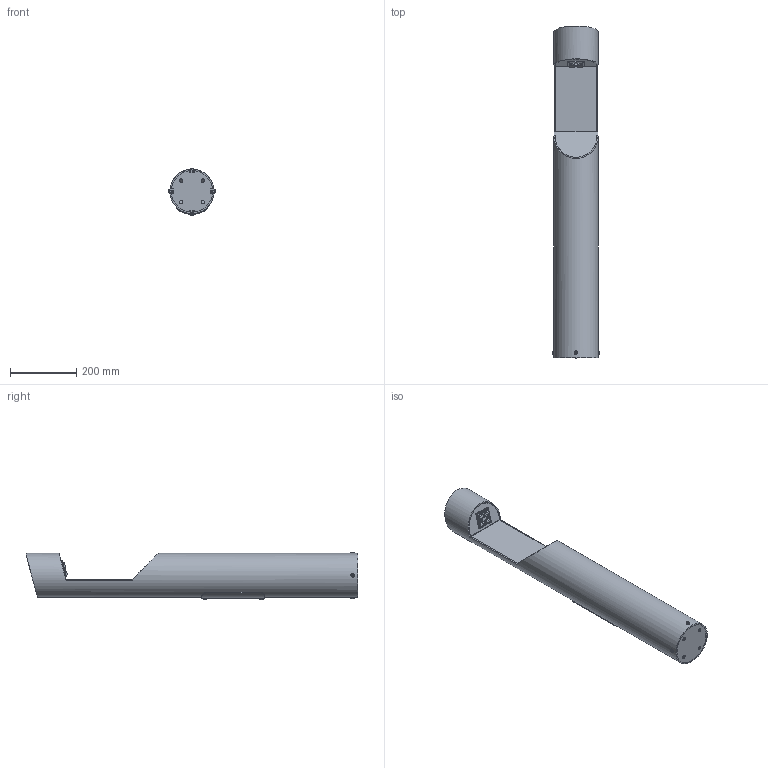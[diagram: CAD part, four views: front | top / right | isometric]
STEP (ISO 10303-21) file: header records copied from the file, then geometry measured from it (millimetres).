
FILE_DESCRIPTION (( 'STEP AP214' ), '1' );
FILE_NAME ('mira-1-1(10)-çäôà-ö+ïî.STEP', '2021-07-08T14:09:29', ( '' ), ( '' ), 'SwSTEP 2.0', 'SolidWorks 2020', '' );
FILE_SCHEMA (( 'AUTOMOTIVE_DESIGN' ));
Length unit declared in the file: millimetre
Products named in the file (7): mira-1-1(10)-çäôà-ö+ïî; PL186.01-06; 妈眚 󊬱6 ISO 7380-1_16; êðûøêà îïîðû Mira; ﾄ濵 mira; Assy_SITARA-2X2-T2 Mechmodel 20171120; îïîðà mira-1
Assembly tree (11 placements, depth 2):
  mira-1-1(10)-çäôà-ö+ïî
    îïîðà mira-1
    PL186.01-06
    Assy_SITARA-2X2-T2 Mechmodel 20171120
    êðûøêà îïîðû Mira
    妈眚 󊬱6 ISO 7380-1_16  x6
    ﾄ濵 mira
Bounding box: 139.6 x 998.93 x 143.44 mm (x, y, z)
Volume: 1684111.9 mm3; surface area: 866612.8 mm2
Topology: 14 solids, 14 shells, 961 faces, 2306 edges, 1430 vertices
Faces by surface type: plane 382, cylinder 264, cone 144, torus 100, bspline 57, sphere 14
Entity records: 32963 total; most frequent: CARTESIAN_POINT 13254, ORIENTED_EDGE 4172, DIRECTION 3601, EDGE_CURVE 2086, AXIS2_PLACEMENT_3D 1341, VERTEX_POINT 1290, EDGE_LOOP 960, VECTOR 919
